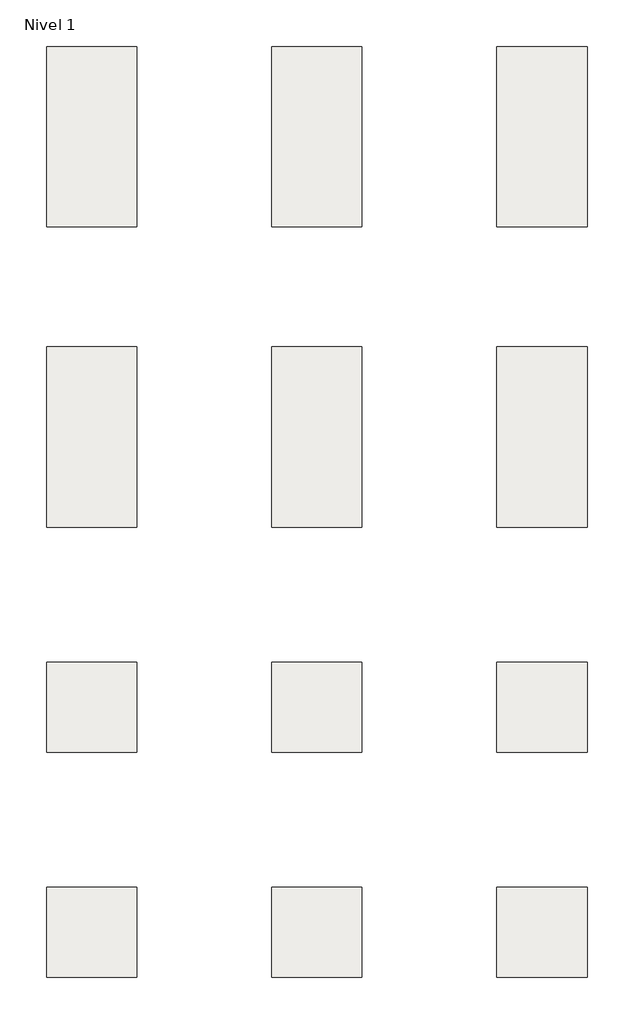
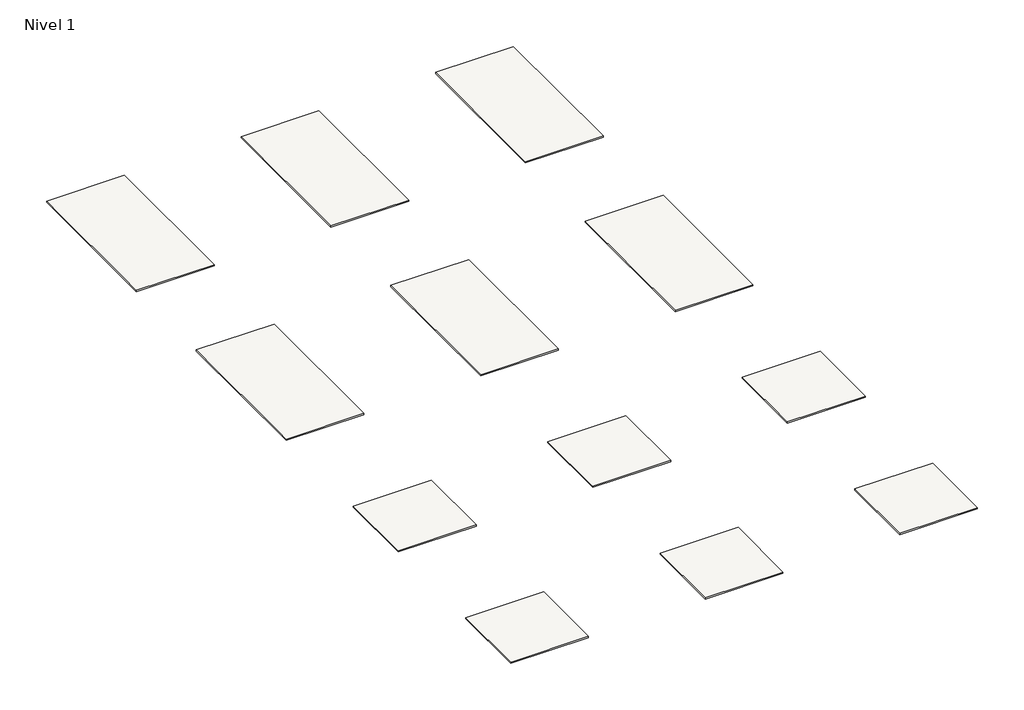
# One storey: 12 slabs.
"""IFC4 building model written with IfcOpenShell, lengths in millimetres."""

import ifcopenshell
import ifcopenshell.guid

model = None  # the IFC model being written
_history = None  # IfcOwnerHistory: only IFC2X3 demands one
_inside = {}  # id of a spatial element -> (the spatial element, [elements in it])
_under = {}  # id of a project, library or spatial element -> (it, [spatial elements below it])
_declared = {}  # id of a project -> (the project, [libraries it declares])
_typed = {}  # id of a type object -> (the type object, [elements of that type])
_made_of = {}  # id of a material, layer set ... -> (it, [elements and type objects made of it])


def new_model(schema):
    """Start an empty IFC model of exactly this schema.

    Asked for "IFC4X3", IfcOpenShell would pick the latest addendum, in which some entities
    have other attributes; the version numbers below select the first issue.
    IFC2X3 requires an IfcOwnerHistory on every rooted entity: one is made here for all.
    """
    global model, _history
    if schema == "IFC4X3":
        model = ifcopenshell.file(schema_version=(4, 3, 0, 0))
    else:
        model = ifcopenshell.file(schema=schema)
    _inside.clear()
    _under.clear()
    _declared.clear()
    _typed.clear()
    _made_of.clear()
    _history = None
    if model.schema == "IFC2X3":
        org = make("IfcOrganization", Name="unknown")
        user = make(
            "IfcPersonAndOrganization",
            ThePerson=make("IfcPerson", FamilyName="unknown"),
            TheOrganization=org,
        )
        app = make(
            "IfcApplication",
            ApplicationDeveloper=org,
            Version="unknown",
            ApplicationFullName="unknown",
            ApplicationIdentifier="unknown",
        )
        _history = make(
            "IfcOwnerHistory",
            OwningUser=user,
            OwningApplication=app,
            ChangeAction="ADDED",
            CreationDate=0,
        )
    return model


def make(cls, **values):
    """One entity of the class cls with the attributes given. An attribute that is None is left unset."""
    return model.create_entity(
        cls, **{name: value for name, value in values.items() if value is not None}
    )


def rooted(cls, **values):
    """An entity with a GlobalId (a new one), such as an element, a storey or a relation."""
    return make(cls, GlobalId=ifcopenshell.guid.new(), OwnerHistory=_history, **values)


def si_unit(unit_type, name, prefix=None):
    """IfcSIUnit, for example si_unit("LENGTHUNIT", "METRE", prefix="MILLI")."""
    return make("IfcSIUnit", UnitType=unit_type, Prefix=prefix, Name=name)


def assignment(units):
    """IfcUnitAssignment: the units of a project."""
    return None if units is None else make("IfcUnitAssignment", Units=units)


def point(xyz):
    """IfcCartesianPoint."""
    return None if xyz is None else make("IfcCartesianPoint", Coordinates=xyz)


def direction(xyz):
    """IfcDirection."""
    return None if xyz is None else make("IfcDirection", DirectionRatios=xyz)


def frame(location, z_axis=None, x_axis=None):
    """IfcAxis2Placement3D, a coordinate frame: its origin and axes. An axis left out is left unset."""
    return make(
        "IfcAxis2Placement3D",
        Location=point(location),
        Axis=direction(z_axis),
        RefDirection=direction(x_axis),
    )


def origin():
    """The frame at (0, 0, 0) with its axes left unset."""
    return frame((0.0, 0.0, 0.0))


def place(relative_to, where):
    """IfcLocalPlacement: puts the frame where relative to a parent placement (None: the world)."""
    return make(
        "IfcLocalPlacement", PlacementRelTo=relative_to, RelativePlacement=where
    )


def context(
    kind, dimensions, precision=None, world=None, true_north=None, identifier=None
):
    """IfcGeometricRepresentationContext, for example the 3D "Model" context."""
    return make(
        "IfcGeometricRepresentationContext",
        ContextIdentifier=identifier,
        ContextType=kind,
        CoordinateSpaceDimension=dimensions,
        Precision=precision,
        WorldCoordinateSystem=world,
        TrueNorth=true_north,
    )


def project(units=None, contexts=None):
    """IfcProject with its units and contexts."""
    return rooted(
        "IfcProject",
        Name="project",
        RepresentationContexts=contexts,
        UnitsInContext=assignment(units),
    )


def spatial(cls, under=None, at=None, **own):
    """A site, building, storey or space (cls), placed at a placement, below another one or the project."""
    s = rooted(cls, ObjectPlacement=at, **own)
    if under is not None:
        _under.setdefault(under.id(), (under, []))[1].append(s)
    return s


def polyline(points):
    """IfcPolyline through the points."""
    return make("IfcPolyline", Points=[point(p) for p in points])


def outline(outer, holes=None, kind="AREA"):
    """IfcArbitraryClosedProfileDef: a profile drawn as a closed curve; with holes, ...WithVoids."""
    if holes is None:
        return make("IfcArbitraryClosedProfileDef", ProfileType=kind, OuterCurve=outer)
    return make(
        "IfcArbitraryProfileDefWithVoids",
        ProfileType=kind,
        OuterCurve=outer,
        InnerCurves=holes,
    )


def extrude(swept, where, along, depth):
    """IfcExtrudedAreaSolid: the profile swept, set in the frame where, extruded along a direction by depth."""
    return make(
        "IfcExtrudedAreaSolid",
        SweptArea=swept,
        Position=where,
        ExtrudedDirection=direction(along),
        Depth=depth,
    )


def shape(context_of_items, identifier, shape_type, items):
    """IfcShapeRepresentation: the items that make up one representation, for example the "Body"."""
    return make(
        "IfcShapeRepresentation",
        ContextOfItems=context_of_items,
        RepresentationIdentifier=identifier,
        RepresentationType=shape_type,
        Items=items,
    )


def made_of(thing, what):
    """Note that an element or type object is made of a material, layer set ...; save() writes the relation."""
    if what is not None:
        _made_of.setdefault(what.id(), (what, []))[1].append(thing)
    return thing


def element(
    cls,
    number,
    at=None,
    inside=None,
    cuts=None,
    type_object=None,
    material=None,
    context=None,
    identifier="Body",
    shape_type=None,
    held_by="IfcProductDefinitionShape",
    body=None,
    shapes=None,
    **own,
):
    """One element of the class cls, such as IfcWall. Its Tag is "e" and its number.

    at: its placement. inside: the storey or other place that contains it. cuts: it is an
    opening in that element (IfcRelVoidsElement). A single representation is given by context,
    identifier, shape_type and body (its items); several are given by shapes. held_by: the class
    of the entity that holds the representations. save() writes the other relations.
    """
    e = rooted(cls, Tag="e%d" % number, ObjectPlacement=at, **own)
    if body is not None:
        shapes = [shape(context, identifier, shape_type, body)]
    if shapes is not None:
        e.Representation = make(held_by, Representations=shapes)
    if inside is not None:
        _inside.setdefault(inside.id(), (inside, []))[1].append(e)
    if cuts is not None:
        rooted(
            "IfcRelVoidsElement", RelatingBuildingElement=cuts, RelatedOpeningElement=e
        )
    if type_object is not None:
        _typed.setdefault(type_object.id(), (type_object, []))[1].append(e)
    return made_of(e, material)


def aggregate(whole, parts):
    """IfcRelAggregates: a whole, such as a stair, and the parts it consists of."""
    return rooted("IfcRelAggregates", RelatingObject=whole, RelatedObjects=parts)


def save(model, path):
    """Write the relations noted so far, then the file.

    IfcRelAggregates (storeys below a building ...), IfcRelContainedInSpatialStructure (elements
    in a storey), IfcRelDefinesByType, IfcRelAssociatesMaterial and IfcRelDeclares: one each for
    every whole, place, type object, material and project.
    """
    for whole, parts in _under.values():
        aggregate(whole, parts)
    for where, things in _inside.values():
        rooted(
            "IfcRelContainedInSpatialStructure",
            RelatedElements=things,
            RelatingStructure=where,
        )
    for kind, things in _typed.values():
        rooted("IfcRelDefinesByType", RelatedObjects=things, RelatingType=kind)
    for what, things in _made_of.values():
        rooted("IfcRelAssociatesMaterial", RelatedObjects=things, RelatingMaterial=what)
    for by, libraries in _declared.values():
        rooted("IfcRelDeclares", RelatingContext=by, RelatedDefinitions=libraries)
    model.write(path)


model = new_model("IFC4")

# Units and contexts
model_context = context("Model", 3, world=origin())
ifc_project = project(units=[si_unit("LENGTHUNIT", "METRE", prefix="MILLI")], contexts=[model_context])

# Site, building, storey
site = spatial("IfcSite", under=ifc_project)
building = spatial("IfcBuilding", under=site)
storey = spatial("IfcBuildingStorey", under=building, Name="Nivel 1", Elevation=0.0)

# Slabs
placement = place(None, origin())
element("IfcSlab", 1, ObjectType="Capitolio Vein Perla 60X120 Rec", at=placement, inside=storey, context=model_context, shape_type="SweptSolid", body=[
    extrude(outline(polyline([(0.0, 1200.0), (600.0, 1200.0), (600.0, 0.0), (0.0, 0.0), (0.0, 1200.0)])), frame((0.0, 0.0, -10.0), z_axis=(0.0, 0.0, 1.0), x_axis=(1.0, 0.0, 0.0)), (0.0, 0.0, 1.0), 10.0),
])
element("IfcSlab", 2, ObjectType="Capitolio Vein Blanco 60X120 Rec", at=placement, inside=storey, context=model_context, shape_type="SweptSolid", body=[
    extrude(outline(polyline([(1500.0, 1200.0), (2100.0, 1200.0), (2100.0, 0.0), (1500.0, 0.0), (1500.0, 1200.0)])), frame((0.0, 0.0, -10.0), z_axis=(0.0, 0.0, 1.0), x_axis=(1.0, 0.0, 0.0)), (0.0, 0.0, 1.0), 10.0),
])
element("IfcSlab", 3, ObjectType="Capitolio Vein Bone 60X120 Rec", at=placement, inside=storey, context=model_context, shape_type="SweptSolid", body=[
    extrude(outline(polyline([(3000.0, 1200.0), (3600.0, 1200.0), (3600.0, 0.0), (3000.0, 0.0), (3000.0, 1200.0)])), frame((0.0, 0.0, -10.0), z_axis=(0.0, 0.0, 1.0), x_axis=(1.0, 0.0, 0.0)), (0.0, 0.0, 1.0), 10.0),
])
element("IfcSlab", 4, ObjectType="Capitolio Cross Perla 60X120 Rec", at=placement, inside=storey, context=model_context, shape_type="SweptSolid", body=[
    extrude(outline(polyline([(0.0, -800.0), (600.0, -800.0), (600.0, -2000.0), (0.0, -2000.0), (0.0, -800.0)])), frame((0.0, 0.0, -10.0), z_axis=(0.0, 0.0, 1.0), x_axis=(1.0, 0.0, 0.0)), (0.0, 0.0, 1.0), 10.0),
])
element("IfcSlab", 5, ObjectType="Capitolio Cross Blanco 60X120 Rec", at=placement, inside=storey, context=model_context, shape_type="SweptSolid", body=[
    extrude(outline(polyline([(1500.0, -800.0), (2100.0, -800.0), (2100.0, -2000.0), (1500.0, -2000.0), (1500.0, -800.0)])), frame((0.0, 0.0, -10.0), z_axis=(0.0, 0.0, 1.0), x_axis=(1.0, 0.0, 0.0)), (0.0, 0.0, 1.0), 10.0),
])
element("IfcSlab", 6, ObjectType="Capitolio Cross Bone 60X120 Rec", at=placement, inside=storey, context=model_context, shape_type="SweptSolid", body=[
    extrude(outline(polyline([(3000.0, -800.0), (3600.0, -800.0), (3600.0, -2000.0), (3000.0, -2000.0), (3000.0, -800.0)])), frame((0.0, 0.0, -10.0), z_axis=(0.0, 0.0, 1.0), x_axis=(1.0, 0.0, 0.0)), (0.0, 0.0, 1.0), 10.0),
])
element("IfcSlab", 7, ObjectType="Capitolio Vein Perla 60X60 Rec", at=placement, inside=storey, context=model_context, shape_type="SweptSolid", body=[
    extrude(outline(polyline([(0.0, -2900.0), (600.0, -2900.0), (600.0, -3500.0), (0.0, -3500.0), (0.0, -2900.0)])), frame((0.0, 0.0, -10.0), z_axis=(0.0, 0.0, 1.0), x_axis=(1.0, 0.0, 0.0)), (0.0, 0.0, 1.0), 10.0),
])
element("IfcSlab", 8, ObjectType="Capitolio Vein Blanco 60X60 Rec", at=placement, inside=storey, context=model_context, shape_type="SweptSolid", body=[
    extrude(outline(polyline([(1500.0, -2900.0), (2100.0, -2900.0), (2100.0, -3500.0), (1500.0, -3500.0), (1500.0, -2900.0)])), frame((0.0, 0.0, -10.0), z_axis=(0.0, 0.0, 1.0), x_axis=(1.0, 0.0, 0.0)), (0.0, 0.0, 1.0), 10.0),
])
element("IfcSlab", 9, ObjectType="Capitolio Vein Bone 60X60 Rec", at=placement, inside=storey, context=model_context, shape_type="SweptSolid", body=[
    extrude(outline(polyline([(3000.0, -2900.0), (3600.0, -2900.0), (3600.0, -3500.0), (3000.0, -3500.0), (3000.0, -2900.0)])), frame((0.0, 0.0, -10.0), z_axis=(0.0, 0.0, 1.0), x_axis=(1.0, 0.0, 0.0)), (0.0, 0.0, 1.0), 10.0),
])
element("IfcSlab", 10, ObjectType="Capitolio Cross Perla 60X60 Rec", at=placement, inside=storey, context=model_context, shape_type="SweptSolid", body=[
    extrude(outline(polyline([(0.0, -4400.0), (600.0, -4400.0), (600.0, -5000.0), (0.0, -5000.0), (0.0, -4400.0)])), frame((0.0, 0.0, -10.0), z_axis=(0.0, 0.0, 1.0), x_axis=(1.0, 0.0, 0.0)), (0.0, 0.0, 1.0), 10.0),
])
element("IfcSlab", 11, ObjectType="Capitolio Cross Blanco 60X60 Rec", at=placement, inside=storey, context=model_context, shape_type="SweptSolid", body=[
    extrude(outline(polyline([(1500.0, -4400.0), (2100.0, -4400.0), (2100.0, -5000.0), (1500.0, -5000.0), (1500.0, -4400.0)])), frame((0.0, 0.0, -10.0), z_axis=(0.0, 0.0, 1.0), x_axis=(1.0, 0.0, 0.0)), (0.0, 0.0, 1.0), 10.0),
])
element("IfcSlab", 12, ObjectType="Capitolio Cross Bone 60X60 Rec", at=placement, inside=storey, context=model_context, shape_type="SweptSolid", body=[
    extrude(outline(polyline([(3000.0, -4400.0), (3600.0, -4400.0), (3600.0, -5000.0), (3000.0, -5000.0), (3000.0, -4400.0)])), frame((0.0, 0.0, -10.0), z_axis=(0.0, 0.0, 1.0), x_axis=(1.0, 0.0, 0.0)), (0.0, 0.0, 1.0), 10.0),
])

save(model, "model.ifc")
